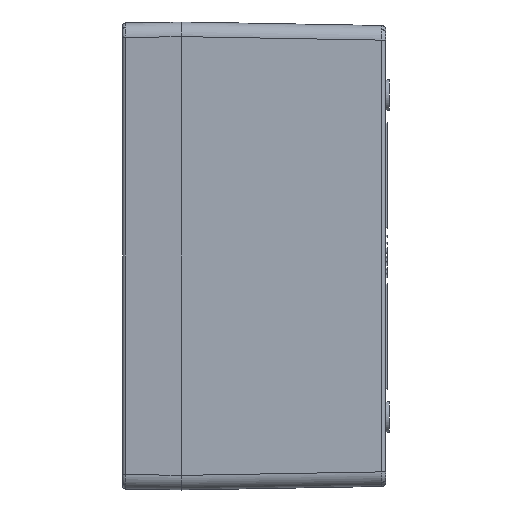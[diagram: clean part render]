
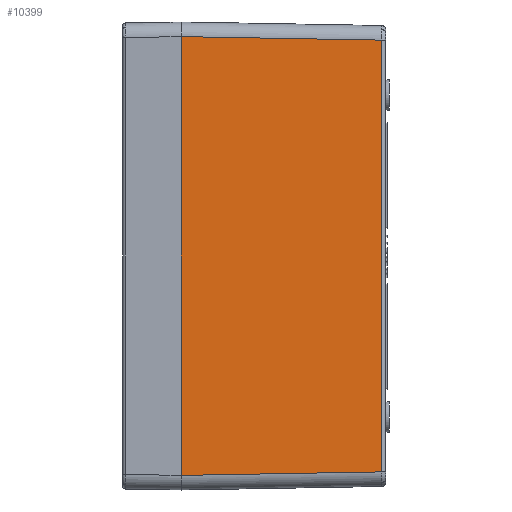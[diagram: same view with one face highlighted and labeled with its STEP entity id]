
A CAD part, left-side view. The second image highlights one B-rep face of the part: STEP entity #10399.
In plain terms, the highlighted planar face has unit normal (-1, -0.018, 0).
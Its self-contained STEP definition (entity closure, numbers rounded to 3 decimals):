
#32 = FACE_OUTER_BOUND ( 'NONE', #2700, .T. ) ;
#608 = ORIENTED_EDGE ( 'NONE', *, *, #24719, .T. ) ;
#2700 = EDGE_LOOP ( 'NONE', ( #16483, #24400, #608, #15944 ) ) ;
#4695 = CARTESIAN_POINT ( 'NONE',  ( -128.804, -68.526, 80. ) ) ;
#4708 = EDGE_CURVE ( 'NONE', #27126, #18016, #10438, .T. ) ;
#4863 = VECTOR ( 'NONE', #19256, 1000. ) ;
#5764 = VECTOR ( 'NONE', #18515, 1000. ) ;
#6529 = PLANE ( 'NONE',  #9573 ) ;
#6549 = DIRECTION ( 'NONE',  ( 0.017, -1., 0.017 ) ) ;
#7401 = CARTESIAN_POINT ( 'NONE',  ( -128.804, -68.526, 73.805 ) ) ;
#8770 = CARTESIAN_POINT ( 'NONE',  ( -130., 0., 75.001 ) ) ;
#9573 = AXIS2_PLACEMENT_3D ( 'NONE', #27228, #13487, #29490 ) ;
#10399 = ADVANCED_FACE ( 'NONE', ( #32 ), #6529, .T. ) ;
#10438 = LINE ( 'NONE', #20366, #17337 ) ;
#12831 = VERTEX_POINT ( 'NONE', #8770 ) ;
#13487 = DIRECTION ( 'NONE',  ( -1., -0.017, 0. ) ) ;
#15944 = ORIENTED_EDGE ( 'NONE', *, *, #18228, .F. ) ;
#16144 = VECTOR ( 'NONE', #17592, 1000. ) ;
#16396 = LINE ( 'NONE', #16918, #4863 ) ;
#16483 = ORIENTED_EDGE ( 'NONE', *, *, #4708, .T. ) ;
#16918 = CARTESIAN_POINT ( 'NONE',  ( -130., 0., 80. ) ) ;
#17337 = VECTOR ( 'NONE', #6549, 1000. ) ;
#17592 = DIRECTION ( 'NONE',  ( -0.017, 1., 0.017 ) ) ;
#18016 = VERTEX_POINT ( 'NONE', #20779 ) ;
#18228 = EDGE_CURVE ( 'NONE', #27126, #12831, #16396, .T. ) ;
#18515 = DIRECTION ( 'NONE',  ( 0., 0., 1. ) ) ;
#19256 = DIRECTION ( 'NONE',  ( 0., 0., 1. ) ) ;
#20366 = CARTESIAN_POINT ( 'NONE',  ( -129.953, -2.704, -74.954 ) ) ;
#20779 = CARTESIAN_POINT ( 'NONE',  ( -128.804, -68.526, -73.805 ) ) ;
#21727 = VERTEX_POINT ( 'NONE', #7401 ) ;
#22290 = LINE ( 'NONE', #28971, #16144 ) ;
#23264 = EDGE_CURVE ( 'NONE', #18016, #21727, #24834, .T. ) ;
#24400 = ORIENTED_EDGE ( 'NONE', *, *, #23264, .T. ) ;
#24719 = EDGE_CURVE ( 'NONE', #21727, #12831, #22290, .T. ) ;
#24834 = LINE ( 'NONE', #4695, #5764 ) ;
#26165 = CARTESIAN_POINT ( 'NONE',  ( -130., 0., -75.001 ) ) ;
#27126 = VERTEX_POINT ( 'NONE', #26165 ) ;
#27228 = CARTESIAN_POINT ( 'NONE',  ( -130., 0., 80. ) ) ;
#28971 = CARTESIAN_POINT ( 'NONE',  ( -130.002, 0.087, 75.002 ) ) ;
#29490 = DIRECTION ( 'NONE',  ( 0.017, -1., 0. ) ) ;
